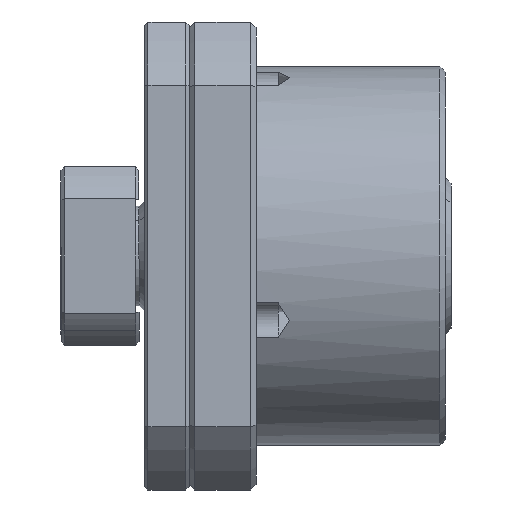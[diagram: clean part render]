
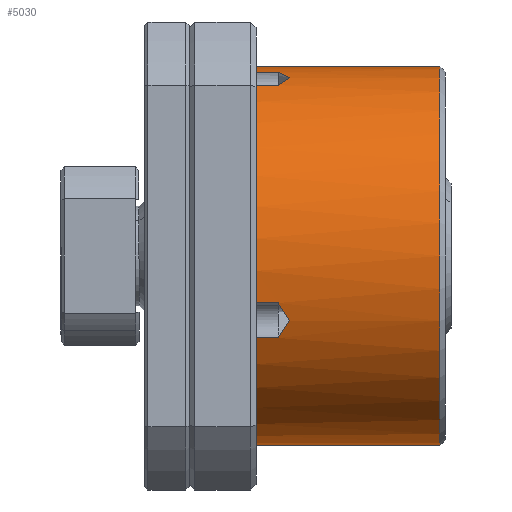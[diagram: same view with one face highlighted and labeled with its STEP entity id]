
A CAD part, front view. The second image highlights one B-rep face of the part: STEP entity #5030.
In plain terms, the highlighted cylindrical face has radius 17 mm (diameter 34 mm), a partial arc.
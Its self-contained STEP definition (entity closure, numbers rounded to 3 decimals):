
#26 = EDGE_CURVE ( 'NONE', #4893, #45, #214, .T. ) ;
#45 = VERTEX_POINT ( 'NONE', #1562 ) ;
#93 = CARTESIAN_POINT ( 'NONE',  ( 6., -4.214, 16.469 ) ) ;
#202 = AXIS2_PLACEMENT_3D ( 'NONE', #662, #4902, #1272 ) ;
#214 = LINE ( 'NONE', #5188, #1870 ) ;
#295 = CARTESIAN_POINT ( 'NONE',  ( 8., -4.214, 16.469 ) ) ;
#300 = CARTESIAN_POINT ( 'NONE',  ( 8.671, -6.339, 15.784 ) ) ;
#342 = CARTESIAN_POINT ( 'NONE',  ( 22.5, 0., -17. ) ) ;
#467 = EDGE_CURVE ( 'NONE', #6383, #7785, #7222, .T. ) ;
#472 = ORIENTED_EDGE ( 'NONE', *, *, #467, .T. ) ;
#481 = VECTOR ( 'NONE', #945, 1000. ) ;
#569 = VERTEX_POINT ( 'NONE', #2972 ) ;
#584 = CARTESIAN_POINT ( 'NONE',  ( 6., -16.469, -4.214 ) ) ;
#603 = ORIENTED_EDGE ( 'NONE', *, *, #7348, .F. ) ;
#651 = CARTESIAN_POINT ( 'NONE',  ( 9.006, -5.814, 15.975 ) ) ;
#662 = CARTESIAN_POINT ( 'NONE',  ( 6., 0., 0. ) ) ;
#680 = VERTEX_POINT ( 'NONE', #7377 ) ;
#762 = CARTESIAN_POINT ( 'NONE',  ( 8.671, -15.784, -6.339 ) ) ;
#804 = CARTESIAN_POINT ( 'NONE',  ( 8., -15.325, -7.358 ) ) ;
#945 = DIRECTION ( 'NONE',  ( -1., 0., 0. ) ) ;
#972 = CARTESIAN_POINT ( 'NONE',  ( 6., -15.325, -7.358 ) ) ;
#983 = ORIENTED_EDGE ( 'NONE', *, *, #6689, .F. ) ;
#1031 = EDGE_CURVE ( 'NONE', #2814, #4252, #2035, .T. ) ;
#1091 = EDGE_CURVE ( 'NONE', #2361, #680, #6736, .T. ) ;
#1272 = DIRECTION ( 'NONE',  ( 0., 0., 1. ) ) ;
#1316 = ORIENTED_EDGE ( 'NONE', *, *, #2773, .T. ) ;
#1335 = DIRECTION ( 'NONE',  ( 0., 0., 1. ) ) ;
#1477 = VERTEX_POINT ( 'NONE', #7448 ) ;
#1508 = CARTESIAN_POINT ( 'NONE',  ( 6., -7.358, 15.325 ) ) ;
#1562 = CARTESIAN_POINT ( 'NONE',  ( 8., -16.469, -4.214 ) ) ;
#1850 = VECTOR ( 'NONE', #7636, 1000. ) ;
#1870 = VECTOR ( 'NONE', #5678, 1000. ) ;
#1985 = ORIENTED_EDGE ( 'NONE', *, *, #26, .T. ) ;
#2035 = LINE ( 'NONE', #5908, #1850 ) ;
#2109 = LINE ( 'NONE', #6956, #481 ) ;
#2116 = DIRECTION ( 'NONE',  ( -1., 0., 0. ) ) ;
#2270 = CARTESIAN_POINT ( 'NONE',  ( 8.672, -16.165, -5.291 ) ) ;
#2361 = VERTEX_POINT ( 'NONE', #5546 ) ;
#2424 = VECTOR ( 'NONE', #7407, 1000. ) ;
#2497 = CARTESIAN_POINT ( 'NONE',  ( 6., 0., 0. ) ) ;
#2513 = CIRCLE ( 'NONE', #7359, 17. ) ;
#2680 = FACE_OUTER_BOUND ( 'NONE', #6587, .T. ) ;
#2702 = CARTESIAN_POINT ( 'NONE',  ( 6., 0., 17. ) ) ;
#2773 = EDGE_CURVE ( 'NONE', #45, #569, #7385, .T. ) ;
#2807 = CARTESIAN_POINT ( 'NONE',  ( 8.672, -5.291, 16.165 ) ) ;
#2814 = VERTEX_POINT ( 'NONE', #3522 ) ;
#2895 = DIRECTION ( 'NONE',  ( -1., 0., 0. ) ) ;
#2909 = ORIENTED_EDGE ( 'NONE', *, *, #1091, .T. ) ;
#2955 = CIRCLE ( 'NONE', #3899, 17. ) ;
#2972 = CARTESIAN_POINT ( 'NONE',  ( 9.006, -15.975, -5.814 ) ) ;
#2986 = CIRCLE ( 'NONE', #202, 17. ) ;
#3067 = EDGE_CURVE ( 'NONE', #569, #2814, #5110, .T. ) ;
#3091 = EDGE_CURVE ( 'NONE', #680, #5746, #3118, .T. ) ;
#3113 = DIRECTION ( 'NONE',  ( 0., 0., 1. ) ) ;
#3118 = LINE ( 'NONE', #6262, #4529 ) ;
#3147 = CARTESIAN_POINT ( 'NONE',  ( 8.335, -6.855, 15.567 ) ) ;
#3159 = VECTOR ( 'NONE', #7052, 1000. ) ;
#3276 = DIRECTION ( 'NONE',  ( -1., 0., 0. ) ) ;
#3401 = CARTESIAN_POINT ( 'NONE',  ( 8.335, -4.755, 16.331 ) ) ;
#3410 = EDGE_CURVE ( 'NONE', #6383, #5752, #2986, .T. ) ;
#3471 = CARTESIAN_POINT ( 'NONE',  ( -3.974, 0., -17. ) ) ;
#3492 = AXIS2_PLACEMENT_3D ( 'NONE', #5578, #6763, #1335 ) ;
#3522 = CARTESIAN_POINT ( 'NONE',  ( 8., -15.325, -7.358 ) ) ;
#3564 = ORIENTED_EDGE ( 'NONE', *, *, #1031, .T. ) ;
#3899 = AXIS2_PLACEMENT_3D ( 'NONE', #6502, #2895, #7086 ) ;
#3959 = CARTESIAN_POINT ( 'NONE',  ( 4., -4.214, 16.469 ) ) ;
#3989 = AXIS2_PLACEMENT_3D ( 'NONE', #5748, #2116, #6332 ) ;
#4242 = EDGE_CURVE ( 'NONE', #7785, #2361, #7828, .T. ) ;
#4252 = VERTEX_POINT ( 'NONE', #972 ) ;
#4293 = ORIENTED_EDGE ( 'NONE', *, *, #6567, .T. ) ;
#4384 = CARTESIAN_POINT ( 'NONE',  ( 9.006, -15.975, -5.814 ) ) ;
#4529 = VECTOR ( 'NONE', #3276, 1000. ) ;
#4582 = CARTESIAN_POINT ( 'NONE',  ( 22.5, 0., 17. ) ) ;
#4893 = VERTEX_POINT ( 'NONE', #584 ) ;
#4902 = DIRECTION ( 'NONE',  ( -1., 0., 0. ) ) ;
#4995 = CARTESIAN_POINT ( 'NONE',  ( 8.335, -15.567, -6.855 ) ) ;
#5030 = ADVANCED_FACE ( 'NONE', ( #2680 ), #5527, .T. ) ;
#5110 = B_SPLINE_CURVE_WITH_KNOTS ( 'NONE', 3,
 ( #4384, #762, #4995, #804 ),
 .UNSPECIFIED., .F., .F.,
 ( 4, 4 ),
 ( 0., 0.002 ),
 .UNSPECIFIED. ) ;
#5188 = CARTESIAN_POINT ( 'NONE',  ( 4., -16.469, -4.214 ) ) ;
#5276 = CARTESIAN_POINT ( 'NONE',  ( 8., -7.358, 15.325 ) ) ;
#5294 = CARTESIAN_POINT ( 'NONE',  ( 8.335, -16.331, -4.755 ) ) ;
#5443 = CIRCLE ( 'NONE', #3989, 17. ) ;
#5520 = EDGE_CURVE ( 'NONE', #4893, #5746, #2513, .T. ) ;
#5527 = CYLINDRICAL_SURFACE ( 'NONE', #3492, 17. ) ;
#5546 = CARTESIAN_POINT ( 'NONE',  ( 9.006, -5.814, 15.975 ) ) ;
#5578 = CARTESIAN_POINT ( 'NONE',  ( -3.974, 0., 0. ) ) ;
#5678 = DIRECTION ( 'NONE',  ( 1., 0., 0. ) ) ;
#5736 = EDGE_CURVE ( 'NONE', #6592, #7248, #5443, .T. ) ;
#5739 = ORIENTED_EDGE ( 'NONE', *, *, #5520, .F. ) ;
#5746 = VERTEX_POINT ( 'NONE', #1508 ) ;
#5748 = CARTESIAN_POINT ( 'NONE',  ( 22.5, 0., 0. ) ) ;
#5752 = VERTEX_POINT ( 'NONE', #2702 ) ;
#5908 = CARTESIAN_POINT ( 'NONE',  ( 4., -15.325, -7.358 ) ) ;
#6118 = ORIENTED_EDGE ( 'NONE', *, *, #3410, .F. ) ;
#6204 = ORIENTED_EDGE ( 'NONE', *, *, #3067, .T. ) ;
#6262 = CARTESIAN_POINT ( 'NONE',  ( 4., -7.358, 15.325 ) ) ;
#6332 = DIRECTION ( 'NONE',  ( 0., 0., 1. ) ) ;
#6347 = LINE ( 'NONE', #3471, #3159 ) ;
#6383 = VERTEX_POINT ( 'NONE', #93 ) ;
#6421 = ORIENTED_EDGE ( 'NONE', *, *, #5736, .T. ) ;
#6488 = CARTESIAN_POINT ( 'NONE',  ( 9.006, -15.975, -5.814 ) ) ;
#6502 = CARTESIAN_POINT ( 'NONE',  ( 6., 0., 0. ) ) ;
#6567 = EDGE_CURVE ( 'NONE', #7248, #5752, #2109, .T. ) ;
#6587 = EDGE_LOOP ( 'NONE', ( #983, #6421, #4293, #6118, #472, #6648, #2909, #6859, #5739, #1985, #1316, #6204, #3564, #603 ) ) ;
#6592 = VERTEX_POINT ( 'NONE', #342 ) ;
#6648 = ORIENTED_EDGE ( 'NONE', *, *, #4242, .T. ) ;
#6689 = EDGE_CURVE ( 'NONE', #6592, #1477, #6347, .T. ) ;
#6698 = DIRECTION ( 'NONE',  ( -1., 0., 0. ) ) ;
#6736 = B_SPLINE_CURVE_WITH_KNOTS ( 'NONE', 3,
 ( #651, #300, #3147, #5276 ),
 .UNSPECIFIED., .F., .F.,
 ( 4, 4 ),
 ( 0., 0.002 ),
 .UNSPECIFIED. ) ;
#6763 = DIRECTION ( 'NONE',  ( -1., 0., 0. ) ) ;
#6859 = ORIENTED_EDGE ( 'NONE', *, *, #3091, .T. ) ;
#6956 = CARTESIAN_POINT ( 'NONE',  ( -3.974, 0., 17. ) ) ;
#7009 = CARTESIAN_POINT ( 'NONE',  ( 9.006, -5.814, 15.975 ) ) ;
#7052 = DIRECTION ( 'NONE',  ( -1., 0., 0. ) ) ;
#7053 = CARTESIAN_POINT ( 'NONE',  ( 8., -16.469, -4.214 ) ) ;
#7086 = DIRECTION ( 'NONE',  ( 0., 0., 1. ) ) ;
#7222 = LINE ( 'NONE', #3959, #2424 ) ;
#7248 = VERTEX_POINT ( 'NONE', #4582 ) ;
#7348 = EDGE_CURVE ( 'NONE', #1477, #4252, #2955, .T. ) ;
#7359 = AXIS2_PLACEMENT_3D ( 'NONE', #2497, #6698, #3113 ) ;
#7377 = CARTESIAN_POINT ( 'NONE',  ( 8., -7.358, 15.325 ) ) ;
#7385 = B_SPLINE_CURVE_WITH_KNOTS ( 'NONE', 3,
 ( #7053, #5294, #2270, #6488 ),
 .UNSPECIFIED., .F., .F.,
 ( 4, 4 ),
 ( 0.002, 0.004 ),
 .UNSPECIFIED. ) ;
#7407 = DIRECTION ( 'NONE',  ( 1., 0., 0. ) ) ;
#7448 = CARTESIAN_POINT ( 'NONE',  ( 6., 0., -17. ) ) ;
#7573 = CARTESIAN_POINT ( 'NONE',  ( 8., -4.214, 16.469 ) ) ;
#7636 = DIRECTION ( 'NONE',  ( -1., 0., 0. ) ) ;
#7785 = VERTEX_POINT ( 'NONE', #295 ) ;
#7828 = B_SPLINE_CURVE_WITH_KNOTS ( 'NONE', 3,
 ( #7573, #3401, #2807, #7009 ),
 .UNSPECIFIED., .F., .F.,
 ( 4, 4 ),
 ( 0.002, 0.004 ),
 .UNSPECIFIED. ) ;
